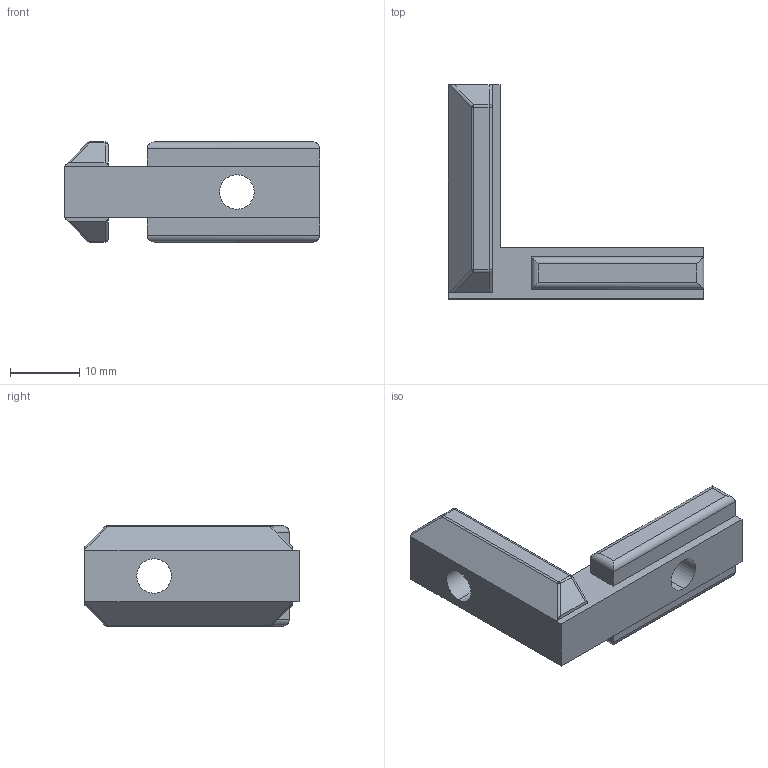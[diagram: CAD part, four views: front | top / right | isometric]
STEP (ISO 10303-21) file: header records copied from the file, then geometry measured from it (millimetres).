
FILE_DESCRIPTION (( 'STEP AP203' ), '1' );
FILE_NAME ('LIMA-IB3030_4040.STEP', '2018-03-15T12:58:40', ( '' ), ( '' ), 'SwSTEP 2.0', 'SolidWorks 2013', '' );
FILE_SCHEMA (( 'CONFIG_CONTROL_DESIGN' ));
Length unit declared in the file: millimetre
Products named in the file (1): LIMA-IB3030_4040
Bounding box: 37 x 31 x 14.5 mm (x, y, z)
Volume: 4808.6 mm3; surface area: 2737.3 mm2
Topology: 1 solids, 1 shells, 64 faces, 152 edges, 90 vertices
Faces by surface type: cylinder 28, plane 28, sphere 8
Entity records: 1881 total; most frequent: CARTESIAN_POINT 367, ORIENTED_EDGE 304, DIRECTION 294, EDGE_CURVE 152, LINE 100, VECTOR 100, AXIS2_PLACEMENT_3D 97, VERTEX_POINT 90
